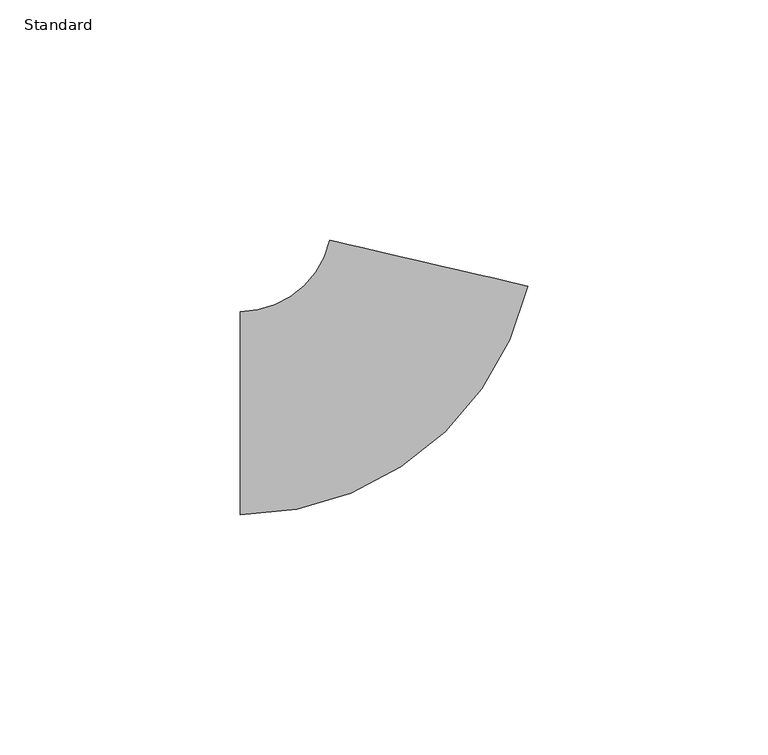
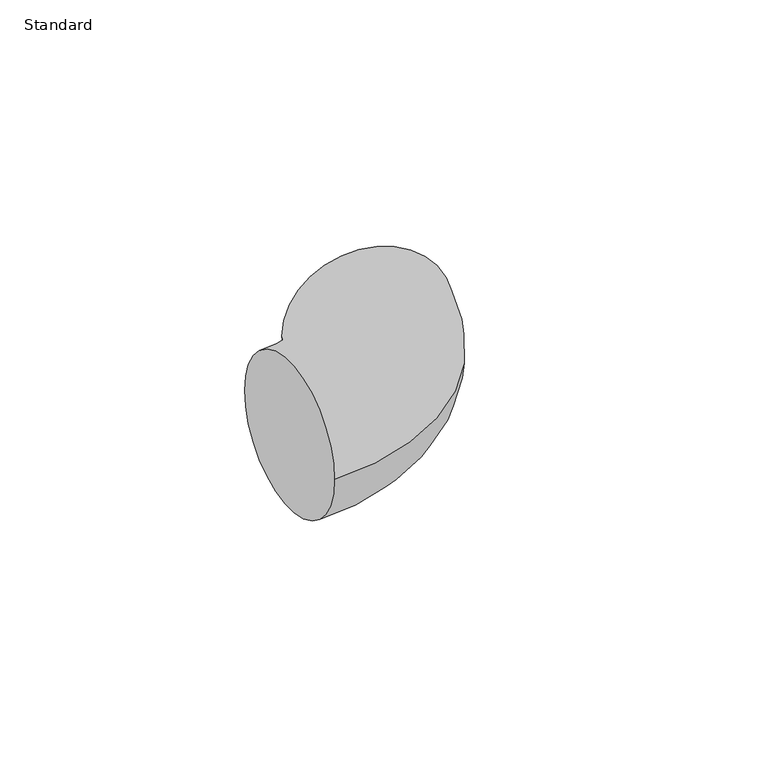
"""IFC4 building model written with IfcOpenShell, lengths in millimetres: pipe fitting geometry, Coude - Générique1 : Standard."""

from ifc_helpers import new_model, si_unit, point, frame, origin, place, context, project, spatial, circle_curve, ellipse_curve, trimmed, source, transform, mapped, element, save
from ifc_brep_helpers import plane_surface, revolved_surface, advanced_brep


def standard_43b117e1(model_context):
    return source(origin(), model_context, "Body", "AdvancedBrep", [
        advanced_brep(
        [(-32.0, -21.1, 0.0), (-32.0, 21.1, 0.0), (27.7580024, 26.4329965, 0.0), (-13.3602849, 35.9264914, 0.0)],
        [
            (0, 1, circle_curve(frame((-32.0, 0.0, 0.0), z_axis=(-1.0, 0.0, 0.0), x_axis=(0.0, 1.0, 0.0)), 21.1)),
            (1, 0, circle_curve(frame((-32.0, 0.0, 0.0), z_axis=(-1.0, 0.0, 0.0), x_axis=(0.0, 1.0, 0.0)), 21.1)),
            (2, 3, circle_curve(frame((7.1988587, 31.179744, 0.0), z_axis=(0.2249643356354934, 0.97436699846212, 0.0), x_axis=(-0.97436699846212, 0.2249643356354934, 0.0)), 21.1)),
            (3, 2, circle_curve(frame((7.1988587, 31.179744, 0.0), z_axis=(0.2249643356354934, 0.97436699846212, 0.0), x_axis=(-0.97436699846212, 0.2249643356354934, 0.0)), 21.1)),
            (3, 1, circle_curve(frame((-32.0, 40.2300763, 0.0), z_axis=(0.0, 0.0, -1.0), x_axis=(0.0, -1.0, 0.0)), 19.1300763)),
            (0, 2, circle_curve(frame((-32.0, 40.2300763, 0.0), z_axis=(0.0, 0.0, 1.0), x_axis=(0.0, -1.0, 0.0)), 61.3300763)),
        ],
        [
            plane_surface(frame((-32.0, 0.0, 0.0), z_axis=(-1.0, 0.0, 0.0), x_axis=(0.0, 0.0, 1.0))),
            plane_surface(frame((7.1988587, 31.179744, 0.0), z_axis=(0.22496433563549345, 0.9743669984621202, 0.0), x_axis=(0.0, 0.0, 1.0))),
            revolved_surface(trimmed(ellipse_curve(frame((-32.0, 0.0, 0.0), z_axis=(-1.0, 0.0, 0.0), x_axis=(0.0, 1.0, 0.0)), 21.1, 21.1), [point((-32.0, -21.1, 0.0))], [point((-32.0, 21.1, 0.0))], True, "CARTESIAN"), (-32.0, 40.2300763, 0.0), (0.0, 0.0, 1.0)),
            revolved_surface(trimmed(ellipse_curve(frame((-32.0, 0.0, 0.0), z_axis=(-1.0, 0.0, 0.0), x_axis=(0.0, 1.0, 0.0)), 21.1, 21.1), [point((-32.0, 21.1, 0.0))], [point((-32.0, -21.1, 0.0))], True, "CARTESIAN"), (-32.0, 40.2300763, 0.0), (0.0, 0.0, 1.0)),
        ],
        [
            (0, [[1, 2]]),
            (1, [[3, 4]]),
            (2, [[5, -1, 6, -4]]),
            (3, [[-6, -2, -5, -3]]),
        ],
    ),
    ])


if __name__ == "__main__":
    model = new_model("IFC4")
    model_context = context("Model", 3, world=origin())
    ifc_project = project(units=[si_unit("LENGTHUNIT", "METRE", prefix="MILLI")], contexts=[model_context])
    site = spatial("IfcSite", under=ifc_project)
    building = spatial("IfcBuilding", under=site)
    placement = place(None, origin())
    standard_shape = standard_43b117e1(model_context)
    element("IfcPipeFitting", 1, ObjectType="Coude - Générique1 : Standard", at=placement, inside=building, context=model_context, shape_type="MappedRepresentation", body=[
        mapped(standard_shape, transform((0.0, 0.0, 0.0), x_axis=(1.0, 0.0, 0.0), y_axis=(0.0, 1.0, 0.0), z_axis=(0.0, 0.0, 1.0))),
    ])
    save(model, "model.ifc")
